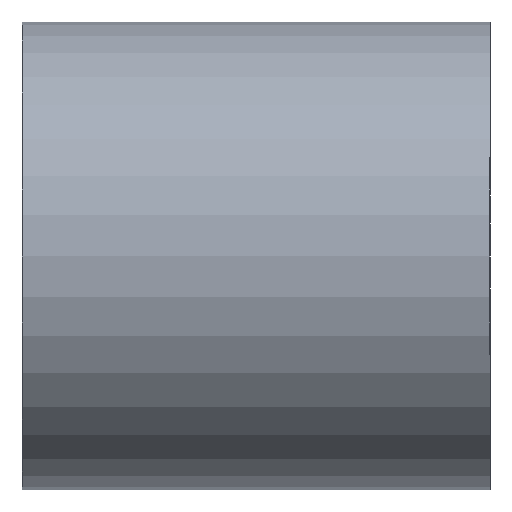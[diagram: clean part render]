
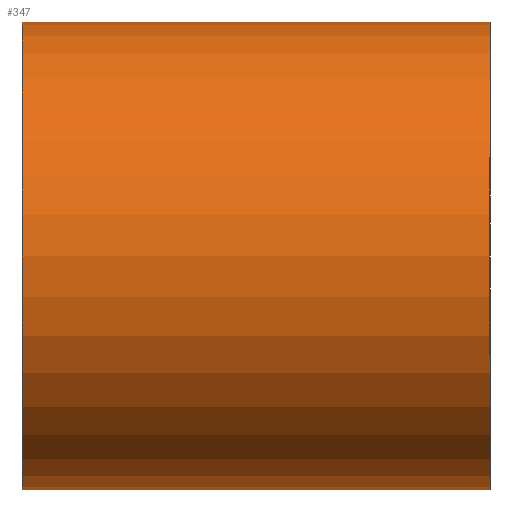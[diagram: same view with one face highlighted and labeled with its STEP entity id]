
A CAD part, left-side view. The second image highlights one B-rep face of the part: STEP entity #347.
In plain terms, the highlighted cylindrical face has radius 50 mm (diameter 100 mm), a partial arc.
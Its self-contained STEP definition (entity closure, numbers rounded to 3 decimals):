
#32=CIRCLE('',#405,50.);
#33=CIRCLE('',#406,50.);
#56=FACE_OUTER_BOUND('',#74,.T.);
#74=EDGE_LOOP('',(#306,#307,#308,#309));
#90=LINE('',#644,#113);
#96=LINE('',#667,#119);
#113=VECTOR('',#455,10.);
#119=VECTOR('',#477,10.);
#157=VERTEX_POINT('',#641);
#158=VERTEX_POINT('',#643);
#166=VERTEX_POINT('',#664);
#167=VERTEX_POINT('',#666);
#199=EDGE_CURVE('',#157,#158,#90,.T.);
#210=EDGE_CURVE('',#166,#167,#96,.T.);
#217=EDGE_CURVE('',#157,#167,#32,.T.);
#218=EDGE_CURVE('',#158,#166,#33,.T.);
#306=ORIENTED_EDGE('',*,*,#199,.F.);
#307=ORIENTED_EDGE('',*,*,#217,.T.);
#308=ORIENTED_EDGE('',*,*,#210,.F.);
#309=ORIENTED_EDGE('',*,*,#218,.F.);
#331=CYLINDRICAL_SURFACE('',#404,50.);
#347=ADVANCED_FACE('',(#56),#331,.T.);
#404=AXIS2_PLACEMENT_3D('',#679,#496,#497);
#405=AXIS2_PLACEMENT_3D('',#680,#498,#499);
#406=AXIS2_PLACEMENT_3D('',#681,#500,#501);
#455=DIRECTION('',(0.,1.,0.));
#477=DIRECTION('',(0.,-1.,0.));
#496=DIRECTION('center_axis',(0.,1.,0.));
#497=DIRECTION('ref_axis',(-1.,0.,0.));
#498=DIRECTION('center_axis',(0.,1.,0.));
#499=DIRECTION('ref_axis',(-1.,0.,0.));
#500=DIRECTION('center_axis',(0.,1.,0.));
#501=DIRECTION('ref_axis',(-1.,0.,0.));
#641=CARTESIAN_POINT('',(38.438,0.,-31.977));
#643=CARTESIAN_POINT('',(38.438,100.,-31.977));
#644=CARTESIAN_POINT('',(38.438,0.,-31.977));
#664=CARTESIAN_POINT('',(38.438,100.,31.977));
#666=CARTESIAN_POINT('',(38.438,0.,31.977));
#667=CARTESIAN_POINT('',(38.438,0.,31.977));
#679=CARTESIAN_POINT('Origin',(0.,0.,0.));
#680=CARTESIAN_POINT('Origin',(0.,0.,0.));
#681=CARTESIAN_POINT('Origin',(0.,100.,0.));
